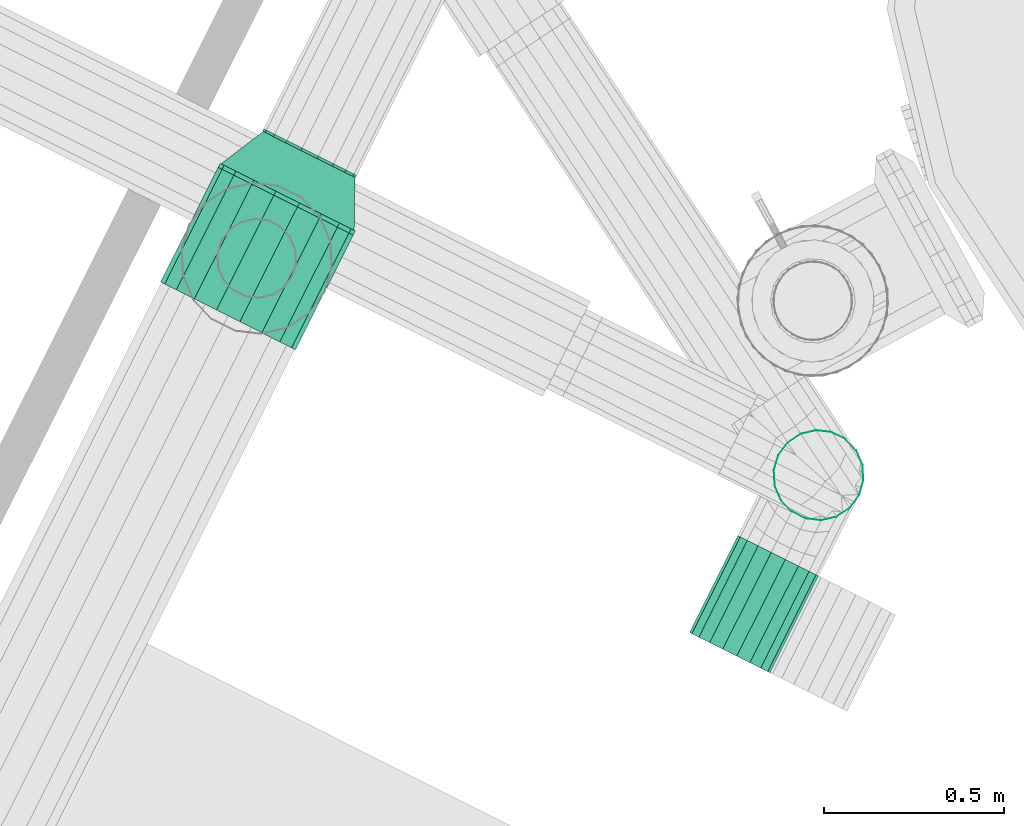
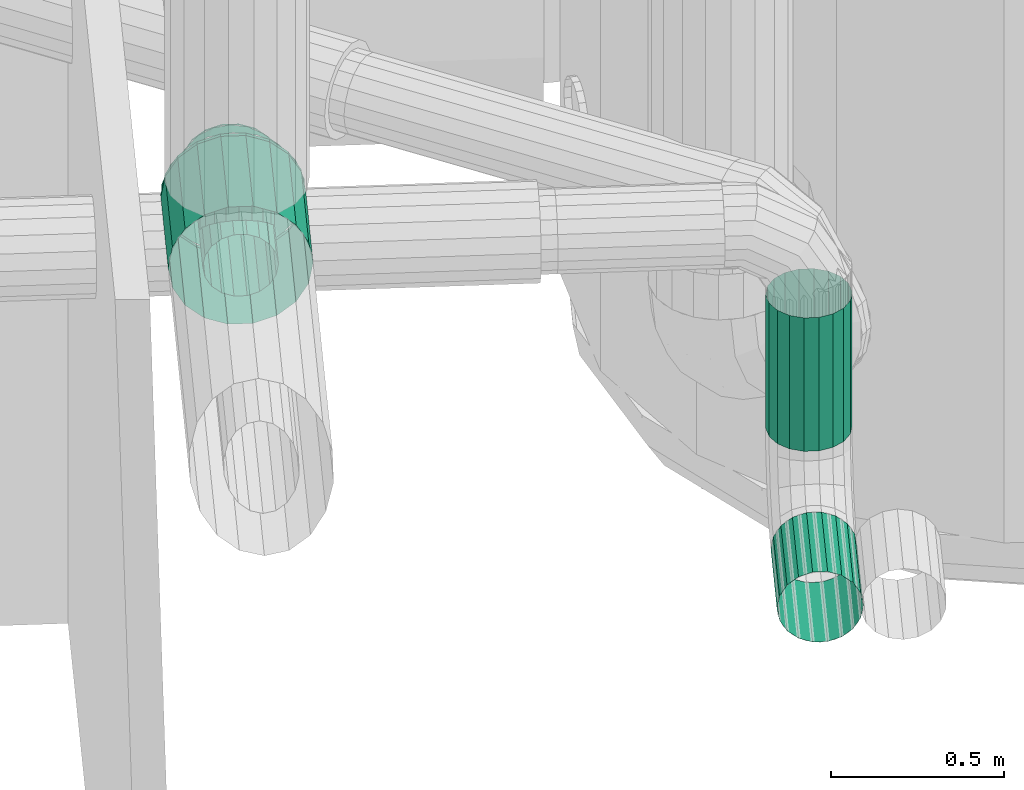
# One storey, part 95 of 206: 2 flow fittings, 2 flow segments.
"""IFC2X3 building model written with IfcOpenShell, lengths in metres."""

from ifc_helpers import new_model, si_unit, derived_unit, direction, frame, origin, place, context, subcontext, project, spatial, face_set, surface_model, source, transform, mapped, material, type_object, type_shapes, element, save


model = new_model("IFC2X3")

# Units and contexts
model_context = context("Model", 3, precision=5.2338327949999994e-05, world=origin(), true_north=direction((0.0, 1.0)))
body_context = subcontext(model_context, "Body", "Model", "MODEL_VIEW")
ifc_project = project(units=[si_unit("LENGTHUNIT", "METRE"), si_unit("AREAUNIT", "SQUARE_METRE"), si_unit("VOLUMEUNIT", "CUBIC_METRE"), si_unit("MASSUNIT", "GRAM", prefix="KILO"), si_unit("PLANEANGLEUNIT", "RADIAN"), derived_unit("THERMALTRANSMITTANCEUNIT", [(si_unit("MASSUNIT", "GRAM", prefix="KILO"), 1), (si_unit("THERMODYNAMICTEMPERATUREUNIT", "KELVIN"), -1), (si_unit("TIMEUNIT", "SECOND"), -3)])], contexts=[model_context])

# Site, building, storey
site_placement = place(None, frame((0.0, 0.0, 0.0), z_axis=(0.0, 0.0, 1.0), x_axis=(0.8939966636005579, -0.4480736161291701, 0.0)))
site = spatial("IfcSite", under=ifc_project, at=site_placement, Name="Default", CompositionType="ELEMENT")
building_placement = place(site_placement, origin())
building = spatial("IfcBuilding", under=site, at=building_placement, CompositionType="ELEMENT")
storey_placement = place(building_placement, origin())
storey = spatial("IfcBuildingStorey", under=building, at=storey_placement, Name="Erdgeschoss", CompositionType="ELEMENT", Elevation=0.0)

# Flow segments
ifc_material_1 = material(Name="IfcSurfaceStyle #251447")
distribution_element_type_1 = type_object("IfcDistributionElementType", Name="Wickelfalzrohr 297197:Wickelfalzrohr 297197", material=ifc_material_1)
shared_shape_1 = source(origin(), body_context, "Body", "SurfaceModel", [
    surface_model("IfcFaceBasedSurfaceModel", [(34.03257135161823, 8.54460368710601, 1.2299999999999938), (34.040109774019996, 8.54460368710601, 1.1872474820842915), (34.040109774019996, 8.24460368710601, 1.1872474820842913), (34.03257135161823, 8.244603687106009, 1.2299999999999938), (34.061815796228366, 8.54460368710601, 1.1496515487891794), (34.061815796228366, 8.244603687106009, 1.1496515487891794), (34.09507135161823, 8.54460368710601, 1.1217468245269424), (34.09507135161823, 8.244603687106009, 1.1217468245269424), (34.13586532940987, 8.54460368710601, 1.1068990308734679), (34.13586532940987, 8.244603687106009, 1.1068990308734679), (34.1792773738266, 8.54460368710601, 1.10689903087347), (34.1792773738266, 8.244603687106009, 1.10689903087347), (34.22007135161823, 8.54460368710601, 1.1217468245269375), (34.22007135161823, 8.244603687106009, 1.1217468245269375), (34.253326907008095, 8.54460368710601, 1.1496515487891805), (34.253326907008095, 8.244603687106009, 1.1496515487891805), (34.27503292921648, 8.54460368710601, 1.1872474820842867), (34.27503292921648, 8.244603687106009, 1.1872474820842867), (34.28257135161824, 8.54460368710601, 1.2299999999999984), (34.28257135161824, 8.244603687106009, 1.2299999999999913), (34.27503292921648, 8.54460368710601, 1.2727525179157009), (34.27503292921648, 8.244603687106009, 1.2727525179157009), (34.25332690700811, 8.54460368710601, 1.3103484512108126), (34.25332690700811, 8.244603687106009, 1.3103484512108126), (34.22007135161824, 8.54460368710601, 1.3382531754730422), (34.22007135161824, 8.244603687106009, 1.3382531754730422), (34.1792773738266, 8.54460368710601, 1.353100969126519), (34.1792773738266, 8.244603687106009, 1.353100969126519), (34.13586532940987, 8.54460368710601, 1.3531009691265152), (34.13586532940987, 8.244603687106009, 1.3531009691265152), (34.09507135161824, 8.54460368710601, 1.338253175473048), (34.09507135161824, 8.244603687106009, 1.338253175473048), (34.06181579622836, 8.54460368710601, 1.3103484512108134), (34.06181579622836, 8.244603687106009, 1.3103484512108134), (34.040109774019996, 8.54460368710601, 1.2727525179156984), (34.040109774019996, 8.244603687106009, 1.2727525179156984)], [face_set([[[0, 1, 2, 3]], [[1, 4, 5, 2]], [[4, 6, 7, 5]], [[6, 8, 9, 7]], [[8, 10, 11, 9]], [[10, 12, 13, 11]], [[12, 14, 15, 13]], [[14, 16, 17, 15]], [[16, 18, 19, 17]], [[18, 20, 21, 19]], [[20, 22, 23, 21]], [[22, 24, 25, 23]], [[24, 26, 27, 25]], [[26, 28, 29, 27]], [[28, 30, 31, 29]], [[30, 32, 33, 31]], [[32, 34, 35, 33]], [[34, 0, 3, 35]]])]),
])
type_shapes(distribution_element_type_1, [shared_shape_1])
flow_segment_1_placement = place(storey_placement, origin())
element("IfcFlowSegment", 1, at=flow_segment_1_placement, inside=storey, type_object=distribution_element_type_1, material=ifc_material_1, Name="Wickelfalzrohr", ObjectType="Wickelfalzrohr", context=body_context, shape_type="MappedRepresentation", body=[
    mapped(shared_shape_1, transform((0.0, 0.0, 0.0), scale=1.0)),
])
distribution_element_type_2 = type_object("IfcDistributionElementType", Name="Wickelfalzrohr 297220:Wickelfalzrohr 297220", material=ifc_material_1)
shared_shape_2 = source(origin(), body_context, "Body", "SurfaceModel", [
    surface_model("IfcFaceBasedSurfaceModel", [(34.220071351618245, 8.902856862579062, 1.95), (34.25332690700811, 8.874952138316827, 1.95), (34.25332690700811, 8.874952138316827, 1.4799999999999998), (34.22007135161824, 8.902856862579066, 1.4799999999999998), (34.27503292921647, 8.837356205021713, 1.95), (34.27503292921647, 8.837356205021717, 1.4799999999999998), (34.28257135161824, 8.794603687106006, 1.95), (34.28257135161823, 8.794603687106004, 1.4799999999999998), (34.27503292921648, 8.751851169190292, 1.95), (34.275032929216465, 8.751851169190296, 1.4799999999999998), (34.253326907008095, 8.714255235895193, 1.95), (34.25332690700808, 8.714255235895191, 1.4799999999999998), (34.22007135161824, 8.686350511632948, 1.95), (34.220071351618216, 8.686350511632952, 1.4799999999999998), (34.17927737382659, 8.671502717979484, 1.95), (34.17927737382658, 8.67150271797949, 1.4799999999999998), (34.13586532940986, 8.671502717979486, 1.95), (34.13586532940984, 8.67150271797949, 1.4799999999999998), (34.09507135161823, 8.686350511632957, 1.95), (34.095071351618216, 8.686350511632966, 1.4799999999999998), (34.061815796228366, 8.714255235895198, 1.95), (34.06181579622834, 8.714255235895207, 1.4799999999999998), (34.040109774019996, 8.751851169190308, 1.95), (34.040109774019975, 8.751851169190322, 1.4799999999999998), (34.03257135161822, 8.794603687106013, 1.95), (34.03257135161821, 8.794603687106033, 1.4799999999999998), (34.04010977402, 8.837356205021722, 1.95), (34.040109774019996, 8.837356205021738, 1.4799999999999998), (34.06181579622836, 8.874952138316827, 1.95), (34.06181579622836, 8.874952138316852, 1.4799999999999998), (34.09507135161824, 8.902856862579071, 1.95), (34.09507135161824, 8.902856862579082, 1.4799999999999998), (34.13586532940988, 8.917704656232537, 1.95), (34.135865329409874, 8.917704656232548, 1.4799999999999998), (34.17927737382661, 8.917704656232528, 1.95), (34.17927737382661, 8.917704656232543, 1.4799999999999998)], [face_set([[[0, 1, 2, 3]], [[1, 4, 5, 2]], [[4, 6, 7, 5]], [[6, 8, 9, 7]], [[8, 10, 11, 9]], [[10, 12, 13, 11]], [[12, 14, 15, 13]], [[14, 16, 17, 15]], [[16, 18, 19, 17]], [[18, 20, 21, 19]], [[20, 22, 23, 21]], [[22, 24, 25, 23]], [[24, 26, 27, 25]], [[26, 28, 29, 27]], [[28, 30, 31, 29]], [[30, 32, 33, 31]], [[32, 34, 35, 33]], [[34, 0, 3, 35]]])]),
])
type_shapes(distribution_element_type_2, [shared_shape_2])
flow_segment_2_placement = place(storey_placement, origin())
element("IfcFlowSegment", 2, at=flow_segment_2_placement, inside=storey, type_object=distribution_element_type_2, material=ifc_material_1, Name="Wickelfalzrohr", ObjectType="Wickelfalzrohr", context=body_context, shape_type="MappedRepresentation", body=[
    mapped(shared_shape_2, transform((0.0, 0.0, 0.0), scale=1.0)),
])

# Flow fittings
ifc_material_2 = material(Name="IfcSurfaceStyle #9317")
distribution_element_type_3 = type_object("IfcDistributionElementType", Name="Abzweigstück 345322:Abzweigstück 345322", material=ifc_material_2)
shared_shape_3 = source(origin(), body_context, "Body", "SurfaceModel", [
    surface_model("IfcFaceBasedSurfaceModel", [(32.60494487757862, 8.455986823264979, 2.353999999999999), (32.598338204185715, 8.455986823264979, 2.316531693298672), (32.598338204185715, 8.811986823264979, 2.316531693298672), (32.60494487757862, 8.811986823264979, 2.353999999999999), (32.57931504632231, 8.455986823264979, 2.283582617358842), (32.57931504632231, 8.811986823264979, 2.283582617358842), (32.55016987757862, 8.455986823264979, 2.259126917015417), (32.55016987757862, 8.811986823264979, 2.259126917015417), (32.514418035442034, 8.455986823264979, 2.2461143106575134), (32.514418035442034, 8.811986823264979, 2.2461143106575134), (32.4763717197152, 8.455986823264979, 2.246114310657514), (32.4763717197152, 8.811986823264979, 2.246114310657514), (32.44061987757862, 8.455986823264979, 2.2591269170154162), (32.44061987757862, 8.811986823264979, 2.2591269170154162), (32.41147470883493, 8.455986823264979, 2.2835826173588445), (32.41147470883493, 8.811986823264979, 2.2835826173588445), (32.39245155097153, 8.455986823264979, 2.3165316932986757), (32.39245155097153, 8.811986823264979, 2.3165316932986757), (32.38584487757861, 8.455986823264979, 2.354000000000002), (32.38584487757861, 8.811986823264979, 2.354000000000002), (32.39245155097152, 8.455986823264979, 2.3914683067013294), (32.39245155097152, 8.811986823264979, 2.3914683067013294), (32.41147470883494, 8.455986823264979, 2.4244173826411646), (32.41147470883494, 8.811986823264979, 2.4244173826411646), (32.44061987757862, 8.455986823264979, 2.448873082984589), (32.44061987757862, 8.811986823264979, 2.448873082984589), (32.4763717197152, 8.455986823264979, 2.4618856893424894), (32.4763717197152, 8.811986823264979, 2.4618856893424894), (32.514418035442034, 8.455986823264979, 2.461885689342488), (32.514418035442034, 8.811986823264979, 2.461885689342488), (32.550169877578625, 8.455986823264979, 2.4488730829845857), (32.550169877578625, 8.811986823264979, 2.4488730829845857), (32.57931504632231, 8.455986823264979, 2.424417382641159), (32.57931504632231, 8.811986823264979, 2.424417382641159), (32.59833820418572, 8.455986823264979, 2.391468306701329), (32.59833820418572, 8.811986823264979, 2.391468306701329), (32.704944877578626, 8.455986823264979, 2.3539999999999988), (32.69230746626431, 8.455986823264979, 2.2823296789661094), (32.6923074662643, 8.811986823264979, 2.2823296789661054), (32.704944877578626, 8.811986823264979, 2.3539999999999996), (32.655919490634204, 8.455986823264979, 2.2193038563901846), (32.655919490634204, 8.811986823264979, 2.2193038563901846), (32.600169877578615, 8.455986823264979, 2.172524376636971), (32.600169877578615, 8.811986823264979, 2.172524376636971), (32.531782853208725, 8.455986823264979, 2.1476335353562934), (32.531782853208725, 8.811986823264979, 2.1476335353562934), (32.45900690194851, 8.455986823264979, 2.147633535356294), (32.45900690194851, 8.811986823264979, 2.147633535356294), (32.39061987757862, 8.455986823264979, 2.1725243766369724), (32.39061987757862, 8.811986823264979, 2.1725243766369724), (32.33487026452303, 8.455986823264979, 2.219303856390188), (32.33487026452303, 8.811986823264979, 2.219303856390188), (32.29848228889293, 8.455986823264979, 2.2823296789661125), (32.29848228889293, 8.811986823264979, 2.2823296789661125), (32.28584487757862, 8.455986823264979, 2.3540000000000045), (32.28584487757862, 8.811986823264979, 2.3540000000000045), (32.29848228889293, 8.455986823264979, 2.425670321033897), (32.29848228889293, 8.811986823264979, 2.425670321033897), (32.33487026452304, 8.455986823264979, 2.488696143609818), (32.33487026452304, 8.811986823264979, 2.488696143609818), (32.39061987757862, 8.455986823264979, 2.5354756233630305), (32.39061987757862, 8.811986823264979, 2.5354756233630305), (32.45900690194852, 8.455986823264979, 2.5603664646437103), (32.45900690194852, 8.811986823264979, 2.5603664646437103), (32.531782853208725, 8.455986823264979, 2.5603664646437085), (32.531782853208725, 8.811986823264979, 2.5603664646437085), (32.60016987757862, 8.455986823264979, 2.535475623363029), (32.60016987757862, 8.811986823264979, 2.535475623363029), (32.655919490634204, 8.455986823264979, 2.488696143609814), (32.655919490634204, 8.811986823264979, 2.488696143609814), (32.69230746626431, 8.455986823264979, 2.4256703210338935), (32.69230746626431, 8.811986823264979, 2.4256703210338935), (32.49539487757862, 8.743536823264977, 2.4635500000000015), (32.45792657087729, 8.736930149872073, 2.4569433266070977), (32.45792657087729, 8.736930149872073, 2.5320000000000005), (32.49539487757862, 8.743536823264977, 2.532000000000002), (32.42497749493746, 8.717906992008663, 2.4379201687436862), (32.42497749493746, 8.717906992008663, 2.532000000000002), (32.40052179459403, 8.688761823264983, 2.4087750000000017), (32.40052179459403, 8.688761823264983, 2.532000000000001), (32.38750918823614, 8.653009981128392, 2.3730231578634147), (32.38750918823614, 8.653009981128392, 2.532000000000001), (32.38750918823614, 8.614963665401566, 2.3730231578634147), (32.38750918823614, 8.614963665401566, 2.532000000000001), (32.40052179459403, 8.579211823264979, 2.408775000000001), (32.40052179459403, 8.579211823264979, 2.532000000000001), (32.42497749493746, 8.550066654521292, 2.4379201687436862), (32.42497749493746, 8.550066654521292, 2.532000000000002), (32.45792657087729, 8.531043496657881, 2.4569433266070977), (32.45792657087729, 8.531043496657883, 2.5320000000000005), (32.49539487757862, 8.52443682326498, 2.4635500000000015), (32.49539487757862, 8.52443682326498, 2.532000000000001), (32.53286318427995, 8.531043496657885, 2.456943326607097), (32.532863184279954, 8.531043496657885, 2.5320000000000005), (32.56581226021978, 8.550066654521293, 2.4379201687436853), (32.56581226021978, 8.550066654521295, 2.5320000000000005), (32.5902679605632, 8.579211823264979, 2.4087750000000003), (32.5902679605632, 8.579211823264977, 2.5320000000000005), (32.6032805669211, 8.614963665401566, 2.373023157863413), (32.6032805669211, 8.614963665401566, 2.532), (32.60328056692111, 8.653009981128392, 2.373023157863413), (32.60328056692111, 8.653009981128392, 2.532), (32.5902679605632, 8.68876182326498, 2.4087750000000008), (32.5902679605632, 8.68876182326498, 2.5320000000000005), (32.56581226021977, 8.717906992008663, 2.4379201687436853), (32.56581226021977, 8.717906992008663, 2.5320000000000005), (32.53286318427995, 8.736930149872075, 2.456943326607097), (32.532863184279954, 8.736930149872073, 2.5320000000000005)], [face_set([[[0, 1, 2, 3]], [[1, 4, 5, 2]], [[4, 6, 7, 5]], [[6, 8, 9, 7]], [[8, 10, 11, 9]], [[10, 12, 13, 11]], [[12, 14, 15, 13]], [[14, 16, 17, 15]], [[16, 18, 19, 17]], [[18, 20, 21, 19]], [[20, 22, 23, 21]], [[22, 24, 25, 23]], [[24, 26, 27, 25]], [[26, 28, 29, 27]], [[28, 30, 31, 29]], [[30, 32, 33, 31]], [[32, 34, 35, 33]], [[34, 0, 3, 35]], [[36, 37, 38, 39]], [[37, 40, 41, 38]], [[40, 42, 43, 41]], [[42, 44, 45, 43]], [[44, 46, 47, 45]], [[46, 48, 49, 47]], [[48, 50, 51, 49]], [[50, 52, 53, 51]], [[52, 54, 55, 53]], [[54, 56, 57, 55]], [[56, 58, 59, 57]], [[58, 60, 61, 59]], [[60, 62, 63, 61]], [[62, 64, 65, 63]], [[64, 66, 67, 65]], [[66, 68, 69, 67]], [[68, 70, 71, 69]], [[70, 36, 39, 71]], [[72, 73, 74, 75]], [[73, 76, 77, 74]], [[76, 78, 79, 77]], [[78, 80, 81, 79]], [[80, 82, 83, 81]], [[82, 84, 85, 83]], [[84, 86, 87, 85]], [[86, 88, 89, 87]], [[88, 90, 91, 89]], [[90, 92, 93, 91]], [[92, 94, 95, 93]], [[94, 96, 97, 95]], [[96, 98, 99, 97]], [[98, 100, 101, 99]], [[100, 102, 103, 101]], [[102, 104, 105, 103]], [[104, 106, 107, 105]], [[106, 72, 75, 107]]])]),
])
type_shapes(distribution_element_type_3, [shared_shape_3])
flow_fitting_1_placement = place(storey_placement, origin())
element("IfcFlowFitting", 3, at=flow_fitting_1_placement, inside=storey, type_object=distribution_element_type_3, material=ifc_material_2, Name="Abzweigstück", ObjectType="Abzweigstück", context=body_context, shape_type="MappedRepresentation", body=[
    mapped(shared_shape_3, transform((0.0, 0.0, 0.0), scale=1.0)),
])
distribution_element_type_4 = type_object("IfcDistributionElementType", Name="Übergangsstück 345655:Übergangsstück 345655", material=ifc_material_2)
shared_shape_4 = source(origin(), body_context, "Body", "SurfaceModel", [
    surface_model("IfcFaceBasedSurfaceModel", [(32.38584487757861, 8.811986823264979, 2.354), (32.39245155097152, 8.811986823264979, 2.3914683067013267), (32.39245155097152, 8.824590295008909, 2.3914683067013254), (32.38584487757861, 8.824590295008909, 2.353999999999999), (32.41147470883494, 8.811986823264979, 2.424417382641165), (32.41147470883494, 8.824590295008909, 2.4244173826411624), (32.44061987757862, 8.811986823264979, 2.448873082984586), (32.44061987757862, 8.824590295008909, 2.4488730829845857), (32.4763717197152, 8.811986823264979, 2.4618856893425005), (32.4763717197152, 8.824590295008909, 2.461885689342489), (32.514418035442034, 8.811986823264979, 2.4618856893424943), (32.51441803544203, 8.824590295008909, 2.4618856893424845), (32.550169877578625, 8.811986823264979, 2.448873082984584), (32.550169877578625, 8.824590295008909, 2.448873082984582), (32.57931504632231, 8.811986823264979, 2.4244173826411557), (32.57931504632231, 8.824590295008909, 2.4244173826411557), (32.59833820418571, 8.811986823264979, 2.3914683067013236), (32.598338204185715, 8.824590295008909, 2.391468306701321), (32.60494487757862, 8.811986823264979, 2.353999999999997), (32.60494487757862, 8.824590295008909, 2.353999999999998), (32.598338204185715, 8.811986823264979, 2.316531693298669), (32.598338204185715, 8.824590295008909, 2.31653169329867), (32.57931504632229, 8.811986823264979, 2.2835826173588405), (32.5793150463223, 8.824590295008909, 2.283582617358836), (32.55016987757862, 8.811986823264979, 2.2591269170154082), (32.55016987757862, 8.824590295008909, 2.259126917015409), (32.514418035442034, 8.811986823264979, 2.2461143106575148), (32.514418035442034, 8.824590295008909, 2.2461143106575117), (32.4763717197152, 8.811986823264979, 2.246114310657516), (32.4763717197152, 8.824590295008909, 2.246114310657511), (32.44061987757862, 8.811986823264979, 2.259126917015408), (32.44061987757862, 8.824590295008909, 2.259126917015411), (32.411474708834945, 8.811986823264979, 2.2835826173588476), (32.41147470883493, 8.824590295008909, 2.2835826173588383), (32.392451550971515, 8.811986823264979, 2.316531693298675), (32.39245155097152, 8.824590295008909, 2.31653169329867), (32.28584487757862, 8.811986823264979, 2.3539999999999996), (32.298482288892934, 8.811986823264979, 2.425670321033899), (32.298482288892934, 8.824590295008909, 2.4256703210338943), (32.28584487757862, 8.824590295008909, 2.3539999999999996), (32.33487026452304, 8.811986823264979, 2.4886961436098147), (32.33487026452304, 8.824590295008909, 2.488696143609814), (32.39061987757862, 8.811986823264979, 2.5354756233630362), (32.39061987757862, 8.824590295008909, 2.5354756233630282), (32.45900690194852, 8.811986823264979, 2.5603664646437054), (32.45900690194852, 8.824590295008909, 2.5603664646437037), (32.531782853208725, 8.811986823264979, 2.5603664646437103), (32.531782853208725, 8.824590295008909, 2.5603664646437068), (32.60016987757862, 8.811986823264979, 2.5354756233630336), (32.60016987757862, 8.824590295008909, 2.5354756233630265), (32.655919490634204, 8.811986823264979, 2.488696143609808), (32.655919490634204, 8.824590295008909, 2.488696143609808), (32.69230746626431, 8.811986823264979, 2.425670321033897), (32.69230746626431, 8.824590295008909, 2.4256703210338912), (32.7049448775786, 8.811986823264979, 2.353999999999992), (32.70494487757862, 8.824590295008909, 2.353999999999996), (32.6923074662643, 8.811986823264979, 2.2823296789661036), (32.69230746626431, 8.824590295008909, 2.2823296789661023), (32.655919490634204, 8.811986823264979, 2.2193038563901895), (32.655919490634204, 8.824590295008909, 2.219303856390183), (32.600169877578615, 8.811986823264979, 2.1725243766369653), (32.600169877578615, 8.824590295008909, 2.1725243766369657), (32.53178285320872, 8.811986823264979, 2.14763353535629), (32.531782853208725, 8.824590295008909, 2.1476335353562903), (32.459006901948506, 8.811986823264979, 2.1476335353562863), (32.45900690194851, 8.824590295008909, 2.14763353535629), (32.390619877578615, 8.811986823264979, 2.1725243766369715), (32.39061987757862, 8.824590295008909, 2.1725243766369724), (32.33487026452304, 8.811986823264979, 2.2193038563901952), (32.33487026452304, 8.824590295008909, 2.219303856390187), (32.29848228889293, 8.811986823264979, 2.2823296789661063), (32.29848228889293, 8.824590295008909, 2.2823296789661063), (32.49539487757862, 8.824590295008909, 2.463549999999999), (32.53286318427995, 8.824590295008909, 2.4569433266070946), (32.510597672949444, 8.95683717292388, 2.3957693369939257), (32.49539487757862, 8.95683717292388, 2.3984499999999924), (32.56581226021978, 8.824590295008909, 2.4379201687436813), (32.523966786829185, 8.95683717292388, 2.388050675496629), (32.5902679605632, 8.824590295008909, 2.4087749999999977), (32.53388970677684, 8.95683717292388, 2.3762249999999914), (32.60328056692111, 8.824590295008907, 2.3730231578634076), (32.53916958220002, 8.956837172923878, 2.3617186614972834), (32.60328056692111, 8.82459029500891, 2.334976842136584), (32.53916958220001, 8.956837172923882, 2.3462813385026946), (32.59026796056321, 8.824590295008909, 2.2992249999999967), (32.53388970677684, 8.95683717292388, 2.3317749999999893), (32.56581226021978, 8.824590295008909, 2.2700798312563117), (32.523966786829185, 8.95683717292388, 2.3199493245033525), (32.53286318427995, 8.824590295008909, 2.251056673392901), (32.510597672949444, 8.95683717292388, 2.3122306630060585), (32.49539487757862, 8.824590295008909, 2.244449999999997), (32.49539487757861, 8.95683717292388, 2.3095499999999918), (32.4579265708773, 8.824590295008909, 2.251056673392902), (32.480192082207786, 8.95683717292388, 2.3122306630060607), (32.42497749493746, 8.824590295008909, 2.2700798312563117), (32.46682296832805, 8.95683717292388, 2.319949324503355), (32.40052179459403, 8.824590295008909, 2.299224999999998), (32.4569000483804, 8.95683717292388, 2.331774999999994), (32.38750918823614, 8.824590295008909, 2.334976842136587), (32.45162017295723, 8.95683717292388, 2.3462813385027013), (32.38750918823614, 8.82459029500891, 2.373023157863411), (32.451620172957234, 8.956837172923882, 2.3617186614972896), (32.40052179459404, 8.824590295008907, 2.4087749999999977), (32.4569000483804, 8.956837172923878, 2.376224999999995), (32.42497749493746, 8.824590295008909, 2.437920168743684), (32.46682296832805, 8.95683717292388, 2.3880506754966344), (32.45792657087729, 8.824590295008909, 2.4569433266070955), (32.48019208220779, 8.95683717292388, 2.395769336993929), (32.45094487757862, 8.95683717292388, 2.353999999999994), (32.45362554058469, 8.95683717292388, 2.36920279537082), (32.45362554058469, 8.963986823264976, 2.36920279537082), (32.45094487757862, 8.963986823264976, 2.353999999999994), (32.461344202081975, 8.95683717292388, 2.38257190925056), (32.461344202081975, 8.963986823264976, 2.38257190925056), (32.47316987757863, 8.95683717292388, 2.3924948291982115), (32.47316987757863, 8.963986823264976, 2.3924948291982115), (32.487676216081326, 8.95683717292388, 2.397774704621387), (32.487676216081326, 8.963986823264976, 2.397774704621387), (32.503113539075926, 8.95683717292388, 2.397774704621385), (32.503113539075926, 8.963986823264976, 2.397774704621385), (32.51761987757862, 8.95683717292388, 2.3924948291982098), (32.51761987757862, 8.963986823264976, 2.3924948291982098), (32.52944555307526, 8.95683717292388, 2.3825719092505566), (32.52944555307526, 8.963986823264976, 2.3825719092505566), (32.537164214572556, 8.95683717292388, 2.3692027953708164), (32.537164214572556, 8.963986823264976, 2.3692027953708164), (32.53984487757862, 8.95683717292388, 2.35399999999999), (32.53984487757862, 8.963986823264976, 2.35399999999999), (32.537164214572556, 8.95683717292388, 2.3387972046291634), (32.537164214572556, 8.963986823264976, 2.3387972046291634), (32.529445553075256, 8.95683717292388, 2.325428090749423), (32.529445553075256, 8.963986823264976, 2.325428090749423), (32.51761987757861, 8.95683717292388, 2.315505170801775), (32.51761987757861, 8.963986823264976, 2.315505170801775), (32.50311353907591, 8.95683717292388, 2.310225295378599), (32.50311353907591, 8.963986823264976, 2.310225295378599), (32.487676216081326, 8.95683717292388, 2.3102252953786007), (32.487676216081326, 8.963986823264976, 2.3102252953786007), (32.47316987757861, 8.95683717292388, 2.315505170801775), (32.47316987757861, 8.963986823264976, 2.315505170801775), (32.461344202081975, 8.95683717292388, 2.32542809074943), (32.461344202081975, 8.963986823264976, 2.32542809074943), (32.45362554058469, 8.95683717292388, 2.3387972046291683), (32.45362554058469, 8.963986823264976, 2.3387972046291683), (32.49539487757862, 8.824590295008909, 2.5635499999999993), (32.56706519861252, 8.824590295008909, 2.5509125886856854), (32.54479968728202, 8.956837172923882, 2.489738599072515), (32.49539487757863, 8.95683717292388, 2.4984499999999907), (32.630091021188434, 8.824590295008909, 2.5145246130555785), (32.58824554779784, 8.956837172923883, 2.4646551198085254), (32.67687050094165, 8.824590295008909, 2.458774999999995), (32.62049224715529, 8.956837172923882, 2.4262249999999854), (32.70176134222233, 8.824590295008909, 2.390387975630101), (32.63765035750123, 8.956837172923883, 2.3790834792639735), (32.70176134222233, 8.82459029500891, 2.3176120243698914), (32.63765035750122, 8.956837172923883, 2.3289165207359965), (32.67687050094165, 8.824590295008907, 2.249224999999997), (32.620492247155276, 8.95683717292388, 2.2817749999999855), (32.63009102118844, 8.824590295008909, 2.1934753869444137), (32.58824554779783, 8.956837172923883, 2.24334488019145), (32.56706519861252, 8.824590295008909, 2.157087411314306), (32.544799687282, 8.956837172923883, 2.218261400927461), (32.49539487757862, 8.824590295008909, 2.1444499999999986), (32.49539487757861, 8.956837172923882, 2.209549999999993), (32.42372455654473, 8.824590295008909, 2.1570874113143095), (32.44599006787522, 8.956837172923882, 2.21826140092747), (32.36069873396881, 8.824590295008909, 2.193475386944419), (32.402544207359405, 8.956837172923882, 2.243344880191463), (32.31391925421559, 8.824590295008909, 2.249224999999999), (32.37029750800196, 8.956837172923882, 2.281775), (32.28902841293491, 8.824590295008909, 2.317612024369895), (32.35313939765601, 8.956837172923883, 2.3289165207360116), (32.28902841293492, 8.824590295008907, 2.3903879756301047), (32.35313939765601, 8.95683717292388, 2.37908347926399), (32.313919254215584, 8.824590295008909, 2.4587749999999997), (32.37029750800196, 8.956837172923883, 2.426225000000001), (32.36069873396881, 8.824590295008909, 2.514524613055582), (32.40254420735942, 8.956837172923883, 2.464655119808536), (32.42372455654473, 8.824590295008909, 2.5509125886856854), (32.44599006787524, 8.956837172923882, 2.48973859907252), (32.35094487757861, 8.95683717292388, 2.3540000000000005), (32.359656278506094, 8.95683717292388, 2.403404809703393), (32.359656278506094, 8.963986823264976, 2.403404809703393), (32.35094487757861, 8.963986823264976, 2.3540000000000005), (32.38473975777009, 8.95683717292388, 2.4468506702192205), (32.38473975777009, 8.963986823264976, 2.4468506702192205), (32.42316987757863, 8.95683717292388, 2.479097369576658), (32.42316987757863, 8.963986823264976, 2.479097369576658), (32.47031139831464, 8.95683717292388, 2.4962554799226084), (32.47031139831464, 8.963986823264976, 2.4962554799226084), (32.52047835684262, 8.95683717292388, 2.4962554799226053), (32.52047835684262, 8.963986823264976, 2.4962554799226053), (32.56761987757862, 8.95683717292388, 2.479097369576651), (32.56761987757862, 8.963986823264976, 2.479097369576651), (32.606049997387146, 8.95683717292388, 2.4468506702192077), (32.606049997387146, 8.963986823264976, 2.4468506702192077), (32.63113347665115, 8.95683717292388, 2.4034048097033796), (32.63113347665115, 8.963986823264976, 2.4034048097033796), (32.63984487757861, 8.95683717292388, 2.353999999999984), (32.63984487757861, 8.963986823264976, 2.353999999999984), (32.631133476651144, 8.95683717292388, 2.304595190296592), (32.631133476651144, 8.963986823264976, 2.304595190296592), (32.606049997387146, 8.95683717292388, 2.2611493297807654), (32.606049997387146, 8.963986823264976, 2.2611493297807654), (32.567619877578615, 8.95683717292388, 2.228902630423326), (32.567619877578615, 8.963986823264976, 2.228902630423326), (32.5204783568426, 8.95683717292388, 2.2117445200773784), (32.5204783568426, 8.963986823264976, 2.2117445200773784), (32.47031139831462, 8.95683717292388, 2.211744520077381), (32.47031139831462, 8.963986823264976, 2.211744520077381), (32.423169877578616, 8.95683717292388, 2.2289026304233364), (32.423169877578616, 8.963986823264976, 2.2289026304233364), (32.384739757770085, 8.95683717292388, 2.2611493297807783), (32.384739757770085, 8.963986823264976, 2.2611493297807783), (32.35965627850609, 8.95683717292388, 2.3045951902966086), (32.35965627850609, 8.963986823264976, 2.3045951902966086)], [face_set([[[0, 1, 2, 3]], [[1, 4, 5, 2]], [[4, 6, 7, 5]], [[6, 8, 9, 7]], [[8, 10, 11, 9]], [[10, 12, 13, 11]], [[12, 14, 15, 13]], [[14, 16, 17, 15]], [[16, 18, 19, 17]], [[18, 20, 21, 19]], [[20, 22, 23, 21]], [[22, 24, 25, 23]], [[24, 26, 27, 25]], [[26, 28, 29, 27]], [[28, 30, 31, 29]], [[30, 32, 33, 31]], [[32, 34, 35, 33]], [[34, 0, 3, 35]], [[36, 37, 38, 39]], [[37, 40, 41, 38]], [[40, 42, 43, 41]], [[42, 44, 45, 43]], [[44, 46, 47, 45]], [[46, 48, 49, 47]], [[48, 50, 51, 49]], [[50, 52, 53, 51]], [[52, 54, 55, 53]], [[54, 56, 57, 55]], [[56, 58, 59, 57]], [[58, 60, 61, 59]], [[60, 62, 63, 61]], [[62, 64, 65, 63]], [[64, 66, 67, 65]], [[66, 68, 69, 67]], [[68, 70, 71, 69]], [[70, 36, 39, 71]], [[72, 73, 74, 75]], [[73, 76, 77, 74]], [[76, 78, 79, 77]], [[78, 80, 81, 79]], [[80, 82, 83, 81]], [[82, 84, 85, 83]], [[84, 86, 87, 85]], [[86, 88, 89, 87]], [[88, 90, 91, 89]], [[90, 92, 93, 91]], [[92, 94, 95, 93]], [[94, 96, 97, 95]], [[96, 98, 99, 97]], [[98, 100, 101, 99]], [[100, 102, 103, 101]], [[102, 104, 105, 103]], [[104, 106, 107, 105]], [[106, 72, 75, 107]], [[108, 109, 110, 111]], [[109, 112, 113, 110]], [[112, 114, 115, 113]], [[114, 116, 117, 115]], [[116, 118, 119, 117]], [[118, 120, 121, 119]], [[120, 122, 123, 121]], [[122, 124, 125, 123]], [[124, 126, 127, 125]], [[126, 128, 129, 127]], [[128, 130, 131, 129]], [[130, 132, 133, 131]], [[132, 134, 135, 133]], [[134, 136, 137, 135]], [[136, 138, 139, 137]], [[138, 140, 141, 139]], [[140, 142, 143, 141]], [[142, 108, 111, 143]], [[144, 145, 146, 147]], [[145, 148, 149, 146]], [[148, 150, 151, 149]], [[150, 152, 153, 151]], [[152, 154, 155, 153]], [[154, 156, 157, 155]], [[156, 158, 159, 157]], [[158, 160, 161, 159]], [[160, 162, 163, 161]], [[162, 164, 165, 163]], [[164, 166, 167, 165]], [[166, 168, 169, 167]], [[168, 170, 171, 169]], [[170, 172, 173, 171]], [[172, 174, 175, 173]], [[174, 176, 177, 175]], [[176, 178, 179, 177]], [[178, 144, 147, 179]], [[180, 181, 182, 183]], [[181, 184, 185, 182]], [[184, 186, 187, 185]], [[186, 188, 189, 187]], [[188, 190, 191, 189]], [[190, 192, 193, 191]], [[192, 194, 195, 193]], [[194, 196, 197, 195]], [[196, 198, 199, 197]], [[198, 200, 201, 199]], [[200, 202, 203, 201]], [[202, 204, 205, 203]], [[204, 206, 207, 205]], [[206, 208, 209, 207]], [[208, 210, 211, 209]], [[210, 212, 213, 211]], [[212, 214, 215, 213]], [[214, 180, 183, 215]]])]),
])
type_shapes(distribution_element_type_4, [shared_shape_4])
flow_fitting_2_placement = place(storey_placement, origin())
element("IfcFlowFitting", 4, at=flow_fitting_2_placement, inside=storey, type_object=distribution_element_type_4, material=ifc_material_2, Name="Übergangsstück", ObjectType="Übergangsstück", context=body_context, shape_type="MappedRepresentation", body=[
    mapped(shared_shape_4, transform((0.0, 0.0, 0.0), scale=1.0)),
])

save(model, "model.ifc")
